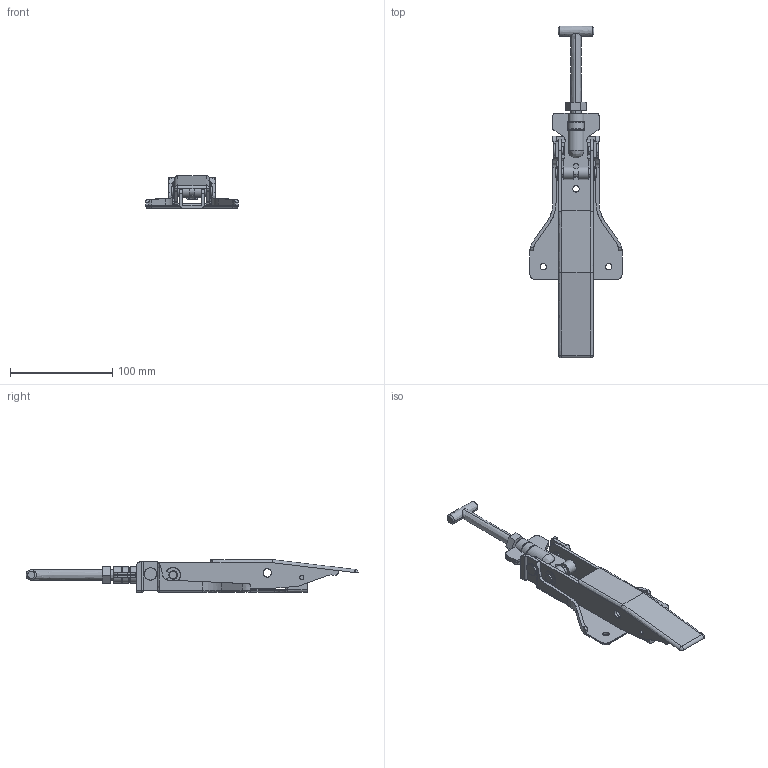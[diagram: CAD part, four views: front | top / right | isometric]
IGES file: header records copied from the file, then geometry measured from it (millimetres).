
Start section: SolidWorks IGES file using analytic representation for surfaces
Global section: file name: C:\Users\cbrechard\Desktop\GR 98.IGS; native system: SolidWorks 2017; preprocessor: SolidWorks 2017; author: cbrechard; date: 220420.092932; units: millimetre
Bounding box: 90 x 324.27 x 32 mm (x, y, z)
Surface area: 72382.7 mm2 (no closed solid volume)
Topology: 0 solids, 0 shells, 405 faces, 5781 edges, 5778 vertices
Faces by surface type: revolution 228, bspline 177
